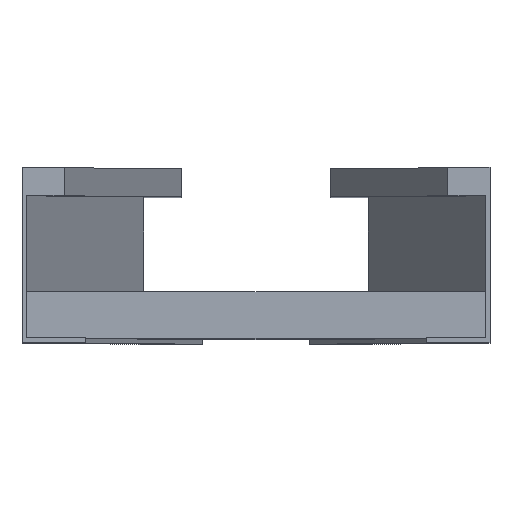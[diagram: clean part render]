
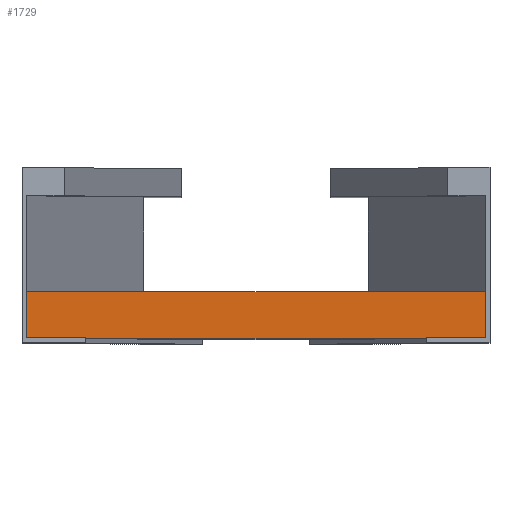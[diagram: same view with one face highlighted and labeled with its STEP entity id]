
A CAD part, top view. The second image highlights one B-rep face of the part: STEP entity #1729.
In plain terms, the highlighted planar face has unit normal (0, 0, 1).
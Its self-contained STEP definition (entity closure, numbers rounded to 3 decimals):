
#174 = VECTOR ( 'NONE', #1922, 1000. ) ;
#177 = VECTOR ( 'NONE', #3502, 1000. ) ;
#211 = CARTESIAN_POINT ( 'NONE',  ( -98., 0., 20.25 ) ) ;
#290 = CARTESIAN_POINT ( 'NONE',  ( -98., 20., 20.25 ) ) ;
#386 = CARTESIAN_POINT ( 'NONE',  ( 98., 0., 20.25 ) ) ;
#436 = CARTESIAN_POINT ( 'NONE',  ( 98., 20., 20.25 ) ) ;
#495 = EDGE_LOOP ( 'NONE', ( #938, #1927, #878, #2045 ) ) ;
#712 = DIRECTION ( 'NONE',  ( -1., 0., 0. ) ) ;
#804 = EDGE_CURVE ( 'NONE', #1498, #1453, #1334, .T. ) ;
#824 = EDGE_CURVE ( 'NONE', #1453, #2650, #3111, .T. ) ;
#878 = ORIENTED_EDGE ( 'NONE', *, *, #804, .F. ) ;
#938 = ORIENTED_EDGE ( 'NONE', *, *, #2406, .T. ) ;
#1079 = DIRECTION ( 'NONE',  ( 0., 0., -1. ) ) ;
#1113 = PLANE ( 'NONE',  #2543 ) ;
#1182 = VECTOR ( 'NONE', #1272, 1000. ) ;
#1272 = DIRECTION ( 'NONE',  ( 0., -1., 0. ) ) ;
#1294 = LINE ( 'NONE', #2527, #2362 ) ;
#1334 = LINE ( 'NONE', #3087, #1182 ) ;
#1453 = VERTEX_POINT ( 'NONE', #3982 ) ;
#1498 = VERTEX_POINT ( 'NONE', #2536 ) ;
#1729 = ADVANCED_FACE ( 'NONE', ( #1949 ), #1113, .F. ) ;
#1922 = DIRECTION ( 'NONE',  ( -1., 0., 0. ) ) ;
#1927 = ORIENTED_EDGE ( 'NONE', *, *, #824, .F. ) ;
#1949 = FACE_OUTER_BOUND ( 'NONE', #495, .T. ) ;
#2045 = ORIENTED_EDGE ( 'NONE', *, *, #3602, .T. ) ;
#2218 = LINE ( 'NONE', #2525, #177 ) ;
#2345 = DIRECTION ( 'NONE',  ( 0., 1., 0. ) ) ;
#2362 = VECTOR ( 'NONE', #712, 1000. ) ;
#2406 = EDGE_CURVE ( 'NONE', #3976, #2650, #2218, .T. ) ;
#2525 = CARTESIAN_POINT ( 'NONE',  ( -98., 20., 20.25 ) ) ;
#2527 = CARTESIAN_POINT ( 'NONE',  ( 98., 20., 20.25 ) ) ;
#2536 = CARTESIAN_POINT ( 'NONE',  ( 98., 20., 20.25 ) ) ;
#2543 = AXIS2_PLACEMENT_3D ( 'NONE', #436, #1079, #2345 ) ;
#2650 = VERTEX_POINT ( 'NONE', #211 ) ;
#3087 = CARTESIAN_POINT ( 'NONE',  ( 98., 20., 20.25 ) ) ;
#3111 = LINE ( 'NONE', #386, #174 ) ;
#3502 = DIRECTION ( 'NONE',  ( 0., -1., 0. ) ) ;
#3602 = EDGE_CURVE ( 'NONE', #1498, #3976, #1294, .T. ) ;
#3976 = VERTEX_POINT ( 'NONE', #290 ) ;
#3982 = CARTESIAN_POINT ( 'NONE',  ( 98., 0., 20.25 ) ) ;
